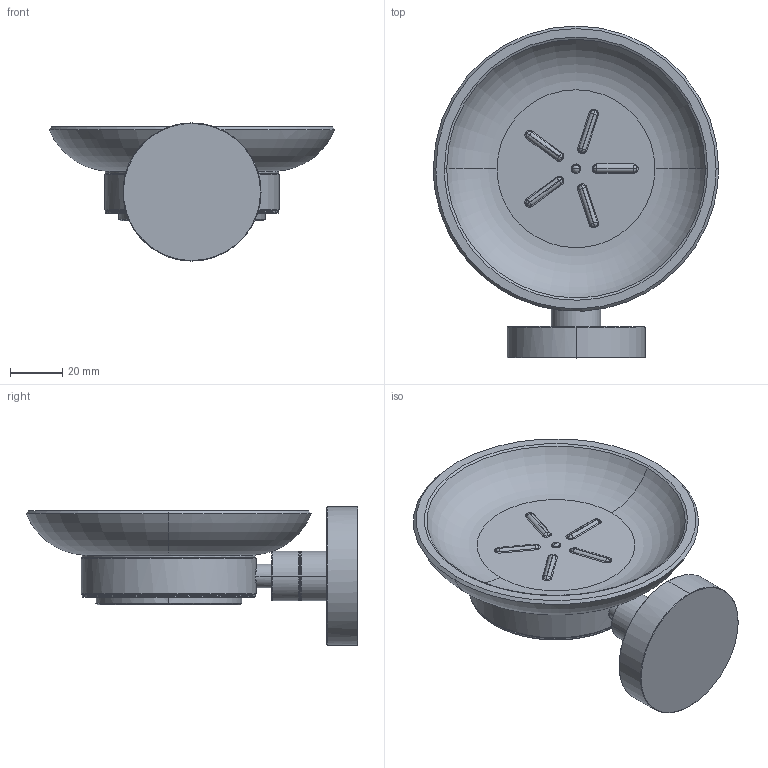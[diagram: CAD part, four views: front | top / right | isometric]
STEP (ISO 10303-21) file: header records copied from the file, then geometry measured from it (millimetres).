
FILE_DESCRIPTION(('THIS FILE CONTAINS SOME STEP INSTANCES'),'1');
FILE_NAME('har_014.stp','2015-11-24T 8:06:20',('UNDEFINED'),('UNDEFINED'),'T-FLEX CAD STEP converter','T-FLEX CAD','');
FILE_SCHEMA(('CONFIG_CONTROL_DESIGN'));
Length unit declared in the file: metre
Products named in the file (3): SoapDish; har_014; PlasticRing(Tumbler,Dish)
Bounding box: 109.46 x 127.28 x 53 mm (x, y, z)
Volume: 130993.1 mm3; surface area: 48192.6 mm2
Topology: 3 solids, 3 shells, 165 faces, 358 edges, 212 vertices
Faces by surface type: cone 70, cylinder 34, plane 31, torus 26, sphere 2, bspline 2
Entity records: 5275 total; most frequent: CARTESIAN_POINT 1957, ORIENTED_EDGE 712, DIRECTION 652, EDGE_CURVE 356, AXIS2_PLACEMENT_3D 259, VERTEX_POINT 212, EDGE_LOOP 184, ADVANCED_FACE 165
